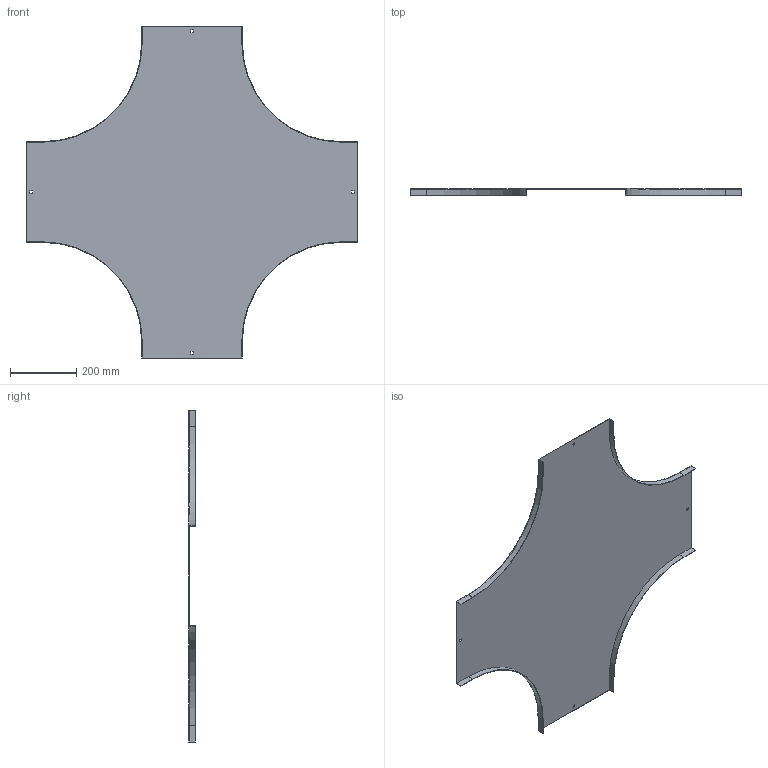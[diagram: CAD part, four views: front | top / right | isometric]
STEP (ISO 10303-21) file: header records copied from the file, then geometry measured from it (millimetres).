
FILE_DESCRIPTION (( 'STEP AP214' ), '1' );
FILE_NAME ('B2_17N3R300.step', '2025-02-21T12:08:43', ( '' ), ( '' ), 'SwSTEP 2.0', 'SolidWorks 2023', '' );
FILE_SCHEMA (( 'AUTOMOTIVE_DESIGN' ));
Length unit declared in the file: millimetre
Products named in the file (1): B2_17N3R300
Bounding box: 1000 x 20 x 1000 mm (x, y, z)
Volume: 948941.3 mm3; surface area: 1270894.3 mm2
Topology: 1 solids, 1 shells, 50 faces, 144 edges, 96 vertices
Faces by surface type: plane 42, cylinder 8
Entity records: 1663 total; most frequent: CARTESIAN_POINT 291, ORIENTED_EDGE 288, DIRECTION 262, EDGE_CURVE 144, LINE 128, VECTOR 128, VERTEX_POINT 96, AXIS2_PLACEMENT_3D 67
